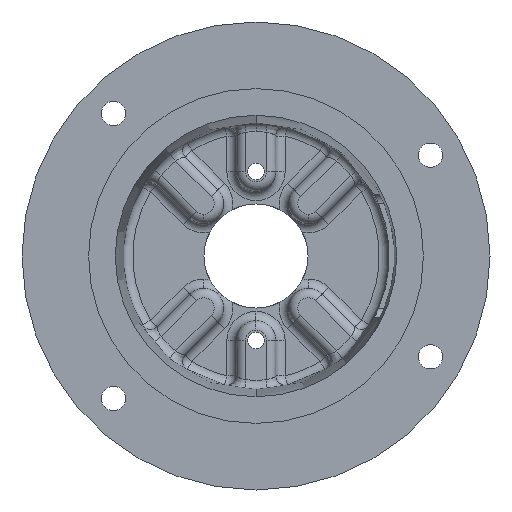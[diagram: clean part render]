
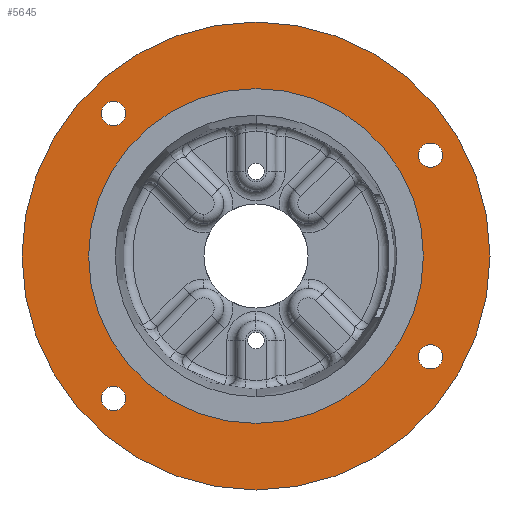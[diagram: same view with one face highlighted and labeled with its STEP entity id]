
A CAD part, front view. The second image highlights one B-rep face of the part: STEP entity #5645.
In plain terms, the highlighted planar face has unit normal (0, -1, 0).
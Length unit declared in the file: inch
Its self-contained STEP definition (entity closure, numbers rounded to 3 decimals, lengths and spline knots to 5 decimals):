
#87 = CARTESIAN_POINT ( 'NONE',  ( 0., 0., -3.2195 ) ) ;
#92 = DIRECTION ( 'NONE',  ( 0., 0., -1. ) ) ;
#93 = CIRCLE ( 'NONE', #5387, 0.23438 ) ;
#141 = AXIS2_PLACEMENT_3D ( 'NONE', #4701, #374, #3754 ) ;
#145 = ORIENTED_EDGE ( 'NONE', *, *, #2294, .F. ) ;
#149 = DIRECTION ( 'NONE',  ( 0., -1., 0. ) ) ;
#196 = DIRECTION ( 'NONE',  ( 0., 0., -1. ) ) ;
#214 = AXIS2_PLACEMENT_3D ( 'NONE', #3033, #149, #3524 ) ;
#216 = VERTEX_POINT ( 'NONE', #2898 ) ;
#322 = CARTESIAN_POINT ( 'NONE',  ( -2.74004, 0., -2.74004 ) ) ;
#374 = DIRECTION ( 'NONE',  ( 0., 1., 0. ) ) ;
#379 = EDGE_LOOP ( 'NONE', ( #1701, #3597 ) ) ;
#384 = DIRECTION ( 'NONE',  ( 0., 0., -1. ) ) ;
#510 = CARTESIAN_POINT ( 'NONE',  ( -2.74004, 0., 2.74004 ) ) ;
#576 = EDGE_CURVE ( 'NONE', #4940, #1487, #6271, .T. ) ;
#662 = CARTESIAN_POINT ( 'NONE',  ( 3.35585, 0., -1.70312 ) ) ;
#685 = FACE_BOUND ( 'NONE', #867, .T. ) ;
#689 = AXIS2_PLACEMENT_3D ( 'NONE', #5891, #2973, #92 ) ;
#799 = DIRECTION ( 'NONE',  ( 0., 0., -1. ) ) ;
#801 = VERTEX_POINT ( 'NONE', #5578 ) ;
#867 = EDGE_LOOP ( 'NONE', ( #5054, #2265 ) ) ;
#906 = ORIENTED_EDGE ( 'NONE', *, *, #2469, .F. ) ;
#974 = AXIS2_PLACEMENT_3D ( 'NONE', #4956, #2026, #5442 ) ;
#988 = DIRECTION ( 'NONE',  ( 0., 0., -1. ) ) ;
#1034 = VERTEX_POINT ( 'NONE', #662 ) ;
#1314 = CIRCLE ( 'NONE', #3693, 0.23438 ) ;
#1317 = CARTESIAN_POINT ( 'NONE',  ( 3.35585, 0., -1.9375 ) ) ;
#1331 = EDGE_CURVE ( 'NONE', #216, #2340, #2703, .T. ) ;
#1449 = CIRCLE ( 'NONE', #2508, 3.2195 ) ;
#1451 = DIRECTION ( 'NONE',  ( 0., -1., 0. ) ) ;
#1457 = CIRCLE ( 'NONE', #974, 4.5 ) ;
#1487 = VERTEX_POINT ( 'NONE', #1829 ) ;
#1701 = ORIENTED_EDGE ( 'NONE', *, *, #2056, .F. ) ;
#1705 = ORIENTED_EDGE ( 'NONE', *, *, #1786, .F. ) ;
#1786 = EDGE_CURVE ( 'NONE', #1930, #3468, #2165, .T. ) ;
#1793 = DIRECTION ( 'NONE',  ( 0., 0., -1. ) ) ;
#1826 = CARTESIAN_POINT ( 'NONE',  ( -2.74004, 0., -2.97441 ) ) ;
#1829 = CARTESIAN_POINT ( 'NONE',  ( -2.74004, 0., 2.50566 ) ) ;
#1866 = ORIENTED_EDGE ( 'NONE', *, *, #6086, .F. ) ;
#1930 = VERTEX_POINT ( 'NONE', #5701 ) ;
#1961 = FACE_BOUND ( 'NONE', #4085, .T. ) ;
#2026 = DIRECTION ( 'NONE',  ( 0., -1., 0. ) ) ;
#2056 = EDGE_CURVE ( 'NONE', #3860, #1034, #1314, .T. ) ;
#2165 = CIRCLE ( 'NONE', #5122, 0.23437 ) ;
#2193 = CARTESIAN_POINT ( 'NONE',  ( -2.74004, 0., 2.97441 ) ) ;
#2247 = DIRECTION ( 'NONE',  ( 0., -1., 0. ) ) ;
#2248 = CARTESIAN_POINT ( 'NONE',  ( -2.74004, 0., -2.74004 ) ) ;
#2265 = ORIENTED_EDGE ( 'NONE', *, *, #576, .F. ) ;
#2286 = PLANE ( 'NONE',  #141 ) ;
#2294 = EDGE_CURVE ( 'NONE', #801, #4675, #2966, .T. ) ;
#2340 = VERTEX_POINT ( 'NONE', #2741 ) ;
#2469 = EDGE_CURVE ( 'NONE', #4675, #801, #4955, .T. ) ;
#2508 = AXIS2_PLACEMENT_3D ( 'NONE', #6173, #3278, #384 ) ;
#2561 = CIRCLE ( 'NONE', #3912, 3.2195 ) ;
#2684 = EDGE_CURVE ( 'NONE', #3468, #1930, #4346, .T. ) ;
#2703 = CIRCLE ( 'NONE', #689, 4.5 ) ;
#2741 = CARTESIAN_POINT ( 'NONE',  ( 0., 0., -4.5 ) ) ;
#2743 = DIRECTION ( 'NONE',  ( 0., 0., -1. ) ) ;
#2749 = CARTESIAN_POINT ( 'NONE',  ( 3.35585, 0., -1.9375 ) ) ;
#2886 = CARTESIAN_POINT ( 'NONE',  ( 3.35585, 0., -2.17187 ) ) ;
#2898 = CARTESIAN_POINT ( 'NONE',  ( 0., 0., 4.5 ) ) ;
#2916 = CARTESIAN_POINT ( 'NONE',  ( 0., 0., 3.2195 ) ) ;
#2958 = CARTESIAN_POINT ( 'NONE',  ( 3.35585, 0., 2.17188 ) ) ;
#2966 = CIRCLE ( 'NONE', #3896, 0.23438 ) ;
#2973 = DIRECTION ( 'NONE',  ( 0., -1., 0. ) ) ;
#3033 = CARTESIAN_POINT ( 'NONE',  ( 3.35585, 0., 1.9375 ) ) ;
#3061 = EDGE_LOOP ( 'NONE', ( #3486, #1705 ) ) ;
#3087 = DIRECTION ( 'NONE',  ( 0., -1., 0. ) ) ;
#3101 = FACE_OUTER_BOUND ( 'NONE', #3374, .T. ) ;
#3234 = DIRECTION ( 'NONE',  ( 0., 0., -1. ) ) ;
#3262 = ORIENTED_EDGE ( 'NONE', *, *, #3977, .T. ) ;
#3278 = DIRECTION ( 'NONE',  ( 0., -1., 0. ) ) ;
#3374 = EDGE_LOOP ( 'NONE', ( #3262, #5612 ) ) ;
#3416 = EDGE_CURVE ( 'NONE', #4619, #3598, #1449, .T. ) ;
#3468 = VERTEX_POINT ( 'NONE', #1826 ) ;
#3486 = ORIENTED_EDGE ( 'NONE', *, *, #2684, .F. ) ;
#3524 = DIRECTION ( 'NONE',  ( 0., 0., -1. ) ) ;
#3597 = ORIENTED_EDGE ( 'NONE', *, *, #6249, .F. ) ;
#3598 = VERTEX_POINT ( 'NONE', #87 ) ;
#3693 = AXIS2_PLACEMENT_3D ( 'NONE', #2749, #6143, #3234 ) ;
#3703 = DIRECTION ( 'NONE',  ( 0., -1., 0. ) ) ;
#3754 = DIRECTION ( 'NONE',  ( 0., 0., 1. ) ) ;
#3860 = VERTEX_POINT ( 'NONE', #2886 ) ;
#3893 = DIRECTION ( 'NONE',  ( 0., -1., 0. ) ) ;
#3896 = AXIS2_PLACEMENT_3D ( 'NONE', #5174, #2247, #5655 ) ;
#3912 = AXIS2_PLACEMENT_3D ( 'NONE', #6000, #3087, #196 ) ;
#3915 = EDGE_LOOP ( 'NONE', ( #1866, #4975 ) ) ;
#3977 = EDGE_CURVE ( 'NONE', #2340, #216, #1457, .T. ) ;
#4085 = EDGE_LOOP ( 'NONE', ( #145, #906 ) ) ;
#4346 = CIRCLE ( 'NONE', #4424, 0.23437 ) ;
#4361 = CARTESIAN_POINT ( 'NONE',  ( -2.74004, 0., 2.74004 ) ) ;
#4405 = FACE_BOUND ( 'NONE', #3915, .T. ) ;
#4424 = AXIS2_PLACEMENT_3D ( 'NONE', #2248, #5659, #2743 ) ;
#4553 = FACE_BOUND ( 'NONE', #3061, .T. ) ;
#4567 = AXIS2_PLACEMENT_3D ( 'NONE', #1317, #4713, #1793 ) ;
#4619 = VERTEX_POINT ( 'NONE', #2916 ) ;
#4675 = VERTEX_POINT ( 'NONE', #2958 ) ;
#4701 = CARTESIAN_POINT ( 'NONE',  ( -4.5, 0., 0. ) ) ;
#4713 = DIRECTION ( 'NONE',  ( 0., -1., 0. ) ) ;
#4852 = DIRECTION ( 'NONE',  ( 0., 0., -1. ) ) ;
#4940 = VERTEX_POINT ( 'NONE', #2193 ) ;
#4955 = CIRCLE ( 'NONE', #214, 0.23438 ) ;
#4956 = CARTESIAN_POINT ( 'NONE',  ( 0., 0., 0. ) ) ;
#4975 = ORIENTED_EDGE ( 'NONE', *, *, #3416, .F. ) ;
#5054 = ORIENTED_EDGE ( 'NONE', *, *, #5114, .F. ) ;
#5075 = AXIS2_PLACEMENT_3D ( 'NONE', #510, #3893, #988 ) ;
#5114 = EDGE_CURVE ( 'NONE', #1487, #4940, #93, .T. ) ;
#5122 = AXIS2_PLACEMENT_3D ( 'NONE', #322, #3703, #799 ) ;
#5174 = CARTESIAN_POINT ( 'NONE',  ( 3.35585, 0., 1.9375 ) ) ;
#5387 = AXIS2_PLACEMENT_3D ( 'NONE', #4361, #1451, #4852 ) ;
#5442 = DIRECTION ( 'NONE',  ( 0., 0., -1. ) ) ;
#5578 = CARTESIAN_POINT ( 'NONE',  ( 3.35585, 0., 1.70313 ) ) ;
#5612 = ORIENTED_EDGE ( 'NONE', *, *, #1331, .T. ) ;
#5645 = ADVANCED_FACE ( 'NONE', ( #1961, #5696, #4553, #685, #4405, #3101 ), #2286, .F. ) ;
#5655 = DIRECTION ( 'NONE',  ( 0., 0., -1. ) ) ;
#5659 = DIRECTION ( 'NONE',  ( 0., -1., 0. ) ) ;
#5696 = FACE_BOUND ( 'NONE', #379, .T. ) ;
#5701 = CARTESIAN_POINT ( 'NONE',  ( -2.74004, 0., -2.50566 ) ) ;
#5841 = CIRCLE ( 'NONE', #4567, 0.23438 ) ;
#5891 = CARTESIAN_POINT ( 'NONE',  ( 0., 0., 0. ) ) ;
#6000 = CARTESIAN_POINT ( 'NONE',  ( 0., 0., 0. ) ) ;
#6086 = EDGE_CURVE ( 'NONE', #3598, #4619, #2561, .T. ) ;
#6143 = DIRECTION ( 'NONE',  ( 0., -1., 0. ) ) ;
#6173 = CARTESIAN_POINT ( 'NONE',  ( 0., 0., 0. ) ) ;
#6249 = EDGE_CURVE ( 'NONE', #1034, #3860, #5841, .T. ) ;
#6271 = CIRCLE ( 'NONE', #5075, 0.23438 ) ;
